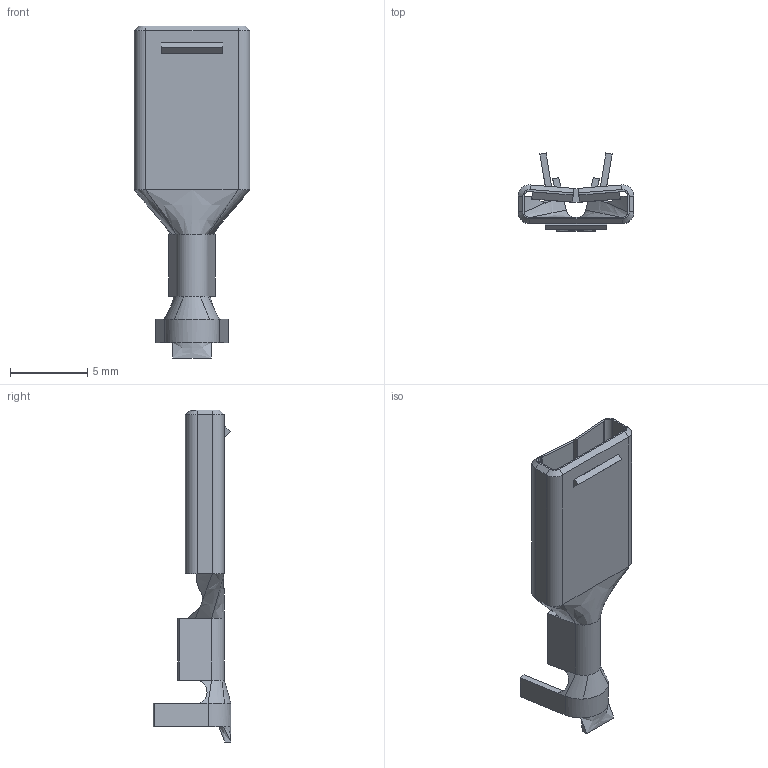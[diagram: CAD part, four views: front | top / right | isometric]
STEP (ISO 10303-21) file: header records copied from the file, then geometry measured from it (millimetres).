
FILE_DESCRIPTION((''),'2;1');
FILE_NAME('C-1544416-2','2015-02-19T',('workeradm'),('Tyco Electronics Ltd.'),'PRO/ENGINEER BY PARAMETRIC TECHNOLOGY CORPORATION, 2014090','PRO/ENGINEER BY PARAMETRIC TECHNOLOGY CORPORATION, 2014090','');
FILE_SCHEMA(('AUTOMOTIVE_DESIGN { 1 0 10303 214 1 1 1 1 }'));
Length unit declared in the file: millimetre
Products named in the file (1): C-1544416-2
Bounding box: 7.5 x 5.05 x 21.5 mm (x, y, z)
Volume: 101.2 mm3; surface area: 551.3 mm2
Topology: 1 solids, 1 shells, 128 faces, 346 edges, 215 vertices
Faces by surface type: plane 78, bspline 28, cylinder 18, cone 4
Entity records: 5239 total; most frequent: CARTESIAN_POINT 1983, ORIENTED_EDGE 692, DIRECTION 549, EDGE_CURVE 346, VECTOR 275, LINE 275, VERTEX_POINT 215, AXIS2_PLACEMENT_3D 137
